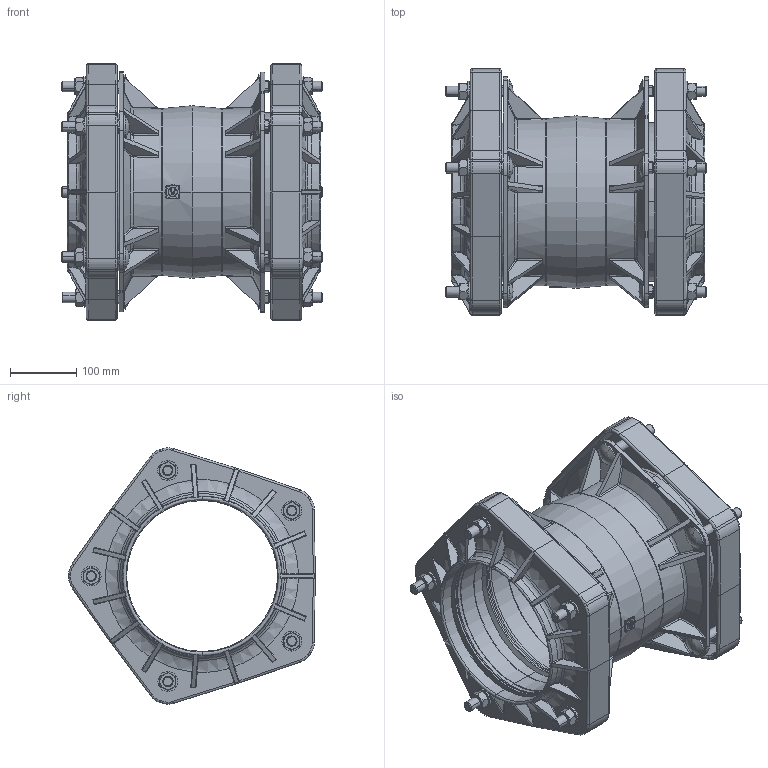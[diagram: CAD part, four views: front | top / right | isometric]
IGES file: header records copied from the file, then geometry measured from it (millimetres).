
Global section: file name: No Iges File Name specified; native system: AutoDesk Inventor R12.0; preprocessor: AutoDesk Inventor Iges Exporter R12.0; date: 20120522.112028; units: millimetre
Bounding box: 393 x 372.5 x 387.25 mm (x, y, z)
Volume: 4208533.9 mm3; surface area: 1335523.8 mm2
Topology: 1 solids, 1 shells, 2390 faces, 6100 edges, 3759 vertices
Faces by surface type: bspline 709, plane 688, revolution 356, cylinder 288, cone 229, torus 120
